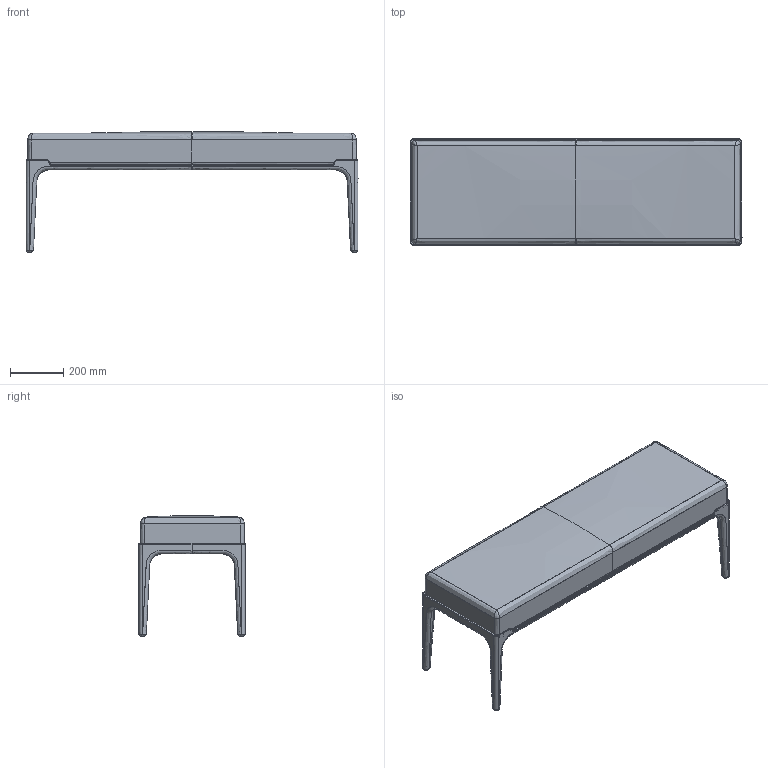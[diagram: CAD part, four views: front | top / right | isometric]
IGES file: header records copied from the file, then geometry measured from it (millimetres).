
Global section: file name: C:\Users\market02\Desktop\RYAN\Fram\EXPORTATION\FFRAMBA125_BANC_BENCH_FRAME\FFRAMBA125_BANC_BENCH_FRAME.igs; native system: Rhinoceros ( Dec 14 2021 ); preprocessor: Trout Lake IGES 012 Dec 14 2021; date: 220216.134949; units: millimetre
Bounding box: 1250 x 400 x 455.22 mm (x, y, z)
Surface area: 2075233.4 mm2 (no closed solid volume)
Topology: 0 solids, 0 shells, 146 faces, 1528 edges, 1508 vertices
Faces by surface type: bspline 146
